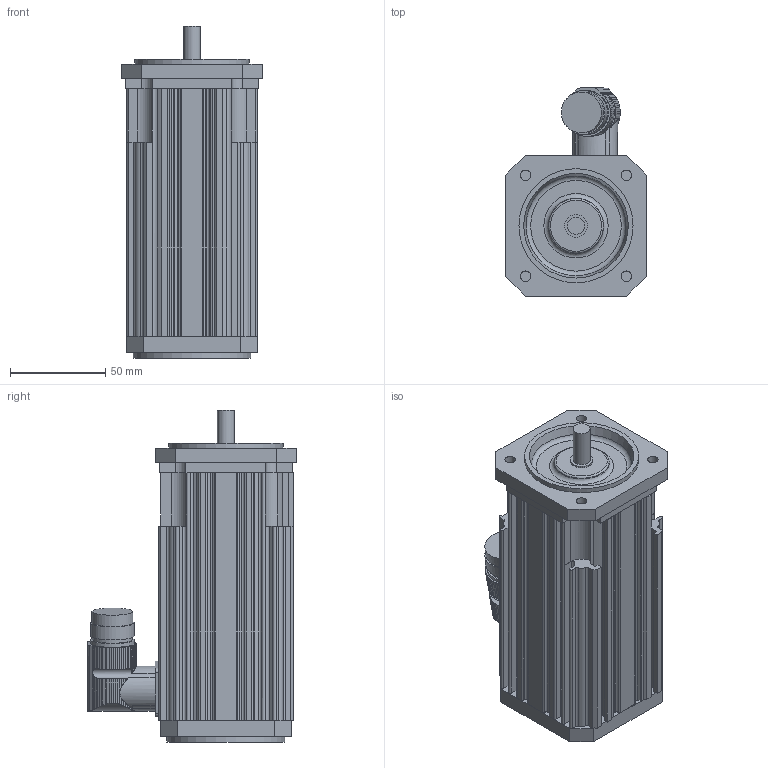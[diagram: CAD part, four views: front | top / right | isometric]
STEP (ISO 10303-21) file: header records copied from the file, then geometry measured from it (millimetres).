
FILE_DESCRIPTION(/* description */ (''),/* implementation_level */ '2;1');
FILE_NAME(/* name */ 'KSA246',/* time_stamp */ '2009-02-26T12:44:54+01:00',/* author */ (''),/* organization */ (''),/* preprocessor_version */ 'ST-DEVELOPER v8',/* originating_system */ 'UNIGRAPHICS SOLUTIONS - UNIGRAPHICS 18.0',/* authorisation */ '');
FILE_SCHEMA (('AUTOMOTIVE_DESIGN { 1 2 10303 214 0 1 1 1 }'));
Length unit declared in the file: millimetre
Products named in the file (4): Lagersch2AS_0; Winkelflanschdose_0; Lagersch2BS_0; KSA244-1_0
Assembly tree (3 placements, depth 2):
  KSA244-1_0
    Lagersch2BS_0
    Winkelflanschdose_0
    Lagersch2AS_0
Bounding box: 74 x 109.69 x 174.5 mm (x, y, z)
Volume: 301605.3 mm3; surface area: 115324.9 mm2
Topology: 4 solids, 4 shells, 474 faces, 1316 edges, 852 vertices
Faces by surface type: cylinder 257, plane 164, torus 16, bspline 16, sphere 16, cone 5
Full cylindrical faces by diameter (mm): 5.5 x4, 9 x1, 12 x1, 16 x1, 20 x1, 21 x1, 21.5 x1, 23 x2, 60 x2, 61 x2, 62 x1
Entity records: 16096 total; most frequent: CARTESIAN_POINT 3733, ORIENTED_EDGE 2530, DIRECTION 2476, EDGE_CURVE 1265, AXIS2_PLACEMENT_3D 933, VERTEX_POINT 842, LINE 610, VECTOR 610
